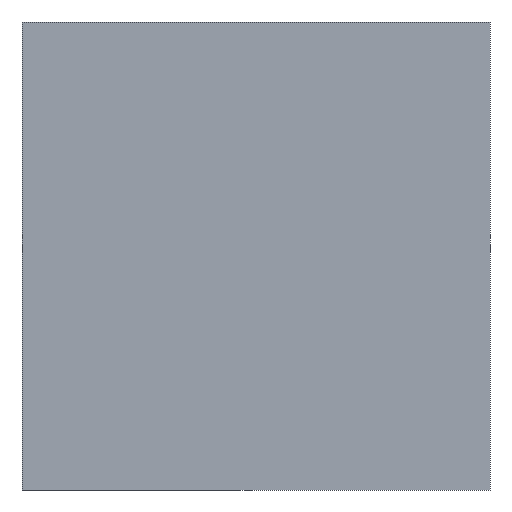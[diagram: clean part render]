
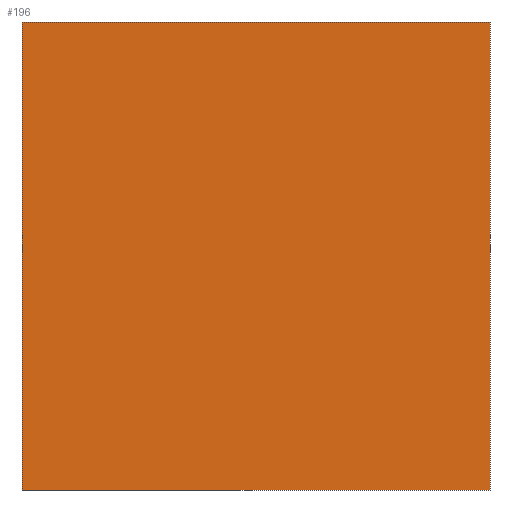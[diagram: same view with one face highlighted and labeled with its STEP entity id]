
A CAD part, front view. The second image highlights one B-rep face of the part: STEP entity #196.
In plain terms, the highlighted planar face has unit normal (0, -1, 0).
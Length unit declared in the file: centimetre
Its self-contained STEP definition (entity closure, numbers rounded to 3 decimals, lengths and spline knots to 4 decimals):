
#71 = DIRECTION ( 'NONE',  ( 0., 0., 1. ) ) ;
#86 = VECTOR ( 'NONE', #373, 100. ) ;
#99 = VECTOR ( 'NONE', #531, 100. ) ;
#111 = DIRECTION ( 'NONE',  ( 0., 1., 0. ) ) ;
#143 = VECTOR ( 'NONE', #226, 100. ) ;
#164 = EDGE_CURVE ( 'NONE', #329, #413, #546, .T. ) ;
#177 = EDGE_CURVE ( 'NONE', #604, #413, #492, .T. ) ;
#196 = ADVANCED_FACE ( 'NONE', ( #555 ), #327, .F. ) ;
#201 = CARTESIAN_POINT ( 'NONE',  ( 0., 0., 1000. ) ) ;
#209 = LINE ( 'NONE', #698, #86 ) ;
#218 = AXIS2_PLACEMENT_3D ( 'NONE', #383, #111, #71 ) ;
#226 = DIRECTION ( 'NONE',  ( 1., 0., 0. ) ) ;
#271 = ORIENTED_EDGE ( 'NONE', *, *, #402, .F. ) ;
#302 = VECTOR ( 'NONE', #398, 100. ) ;
#327 = PLANE ( 'NONE',  #218 ) ;
#329 = VERTEX_POINT ( 'NONE', #347 ) ;
#347 = CARTESIAN_POINT ( 'NONE',  ( 0., 0., 0. ) ) ;
#373 = DIRECTION ( 'NONE',  ( 0., 0., -1. ) ) ;
#375 = CARTESIAN_POINT ( 'NONE',  ( 0., 0., 1000. ) ) ;
#383 = CARTESIAN_POINT ( 'NONE',  ( 0., 0., 1000. ) ) ;
#398 = DIRECTION ( 'NONE',  ( 0., 0., -1. ) ) ;
#402 = EDGE_CURVE ( 'NONE', #490, #604, #424, .T. ) ;
#407 = CARTESIAN_POINT ( 'NONE',  ( 1000., 0., 1000. ) ) ;
#409 = ORIENTED_EDGE ( 'NONE', *, *, #164, .T. ) ;
#413 = VERTEX_POINT ( 'NONE', #429 ) ;
#424 = LINE ( 'NONE', #201, #99 ) ;
#429 = CARTESIAN_POINT ( 'NONE',  ( 1000., 0., 0. ) ) ;
#490 = VERTEX_POINT ( 'NONE', #375 ) ;
#492 = LINE ( 'NONE', #605, #302 ) ;
#499 = EDGE_LOOP ( 'NONE', ( #409, #557, #271, #591 ) ) ;
#531 = DIRECTION ( 'NONE',  ( 1., 0., 0. ) ) ;
#546 = LINE ( 'NONE', #661, #143 ) ;
#555 = FACE_OUTER_BOUND ( 'NONE', #499, .T. ) ;
#557 = ORIENTED_EDGE ( 'NONE', *, *, #177, .F. ) ;
#591 = ORIENTED_EDGE ( 'NONE', *, *, #623, .T. ) ;
#604 = VERTEX_POINT ( 'NONE', #407 ) ;
#605 = CARTESIAN_POINT ( 'NONE',  ( 1000., 0., 1000. ) ) ;
#623 = EDGE_CURVE ( 'NONE', #490, #329, #209, .T. ) ;
#661 = CARTESIAN_POINT ( 'NONE',  ( 0., 0., 0. ) ) ;
#698 = CARTESIAN_POINT ( 'NONE',  ( 0., 0., 1000. ) ) ;
